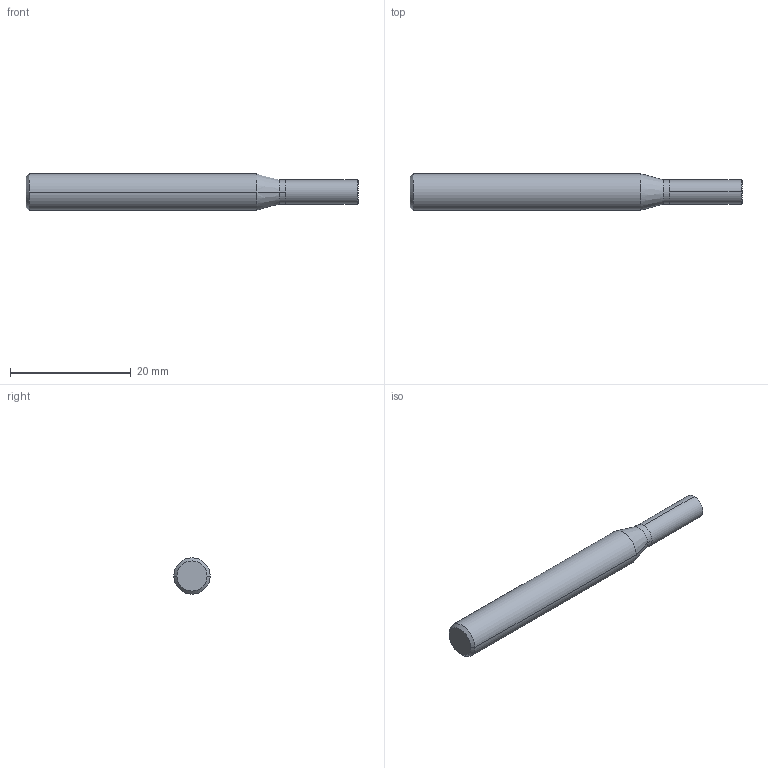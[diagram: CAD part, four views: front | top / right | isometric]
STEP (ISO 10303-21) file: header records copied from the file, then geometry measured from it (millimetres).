
FILE_DESCRIPTION (( 'STEP AP214' ), '1' );
FILE_NAME ('GM99940657.STEP', '2021-02-19T08:53:33', ( 'USER' ), ( 'Hewlett-Packard Company' ), 'SwSTEP 2.0', 'SolidWorks 2014', '' );
FILE_SCHEMA (( 'AUTOMOTIVE_DESIGN' ));
Length unit declared in the file: millimetre
Products named in the file (1): GM99940657
Bounding box: 55 x 6 x 6 mm (x, y, z)
Volume: 1317.3 mm3; surface area: 1004.4 mm2
Topology: 2 solids, 2 shells, 16 faces, 28 edges, 16 vertices
Faces by surface type: cylinder 6, cone 6, plane 4
Entity records: 493 total; most frequent: DIRECTION 78, CARTESIAN_POINT 61, ORIENTED_EDGE 56, AXIS2_PLACEMENT_3D 33, EDGE_CURVE 28, FACE_OUTER_BOUND 16, ADVANCED_FACE 16, CIRCLE 16
